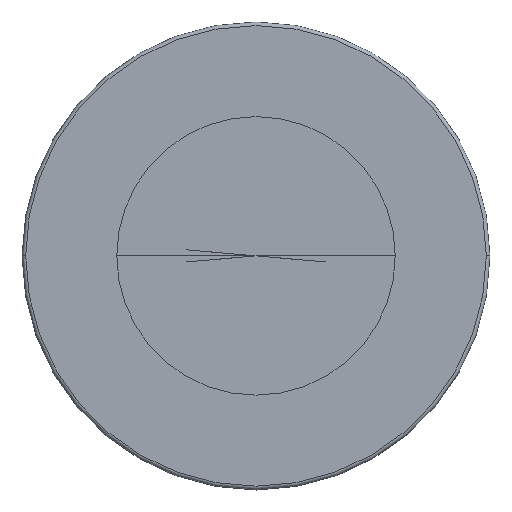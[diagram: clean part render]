
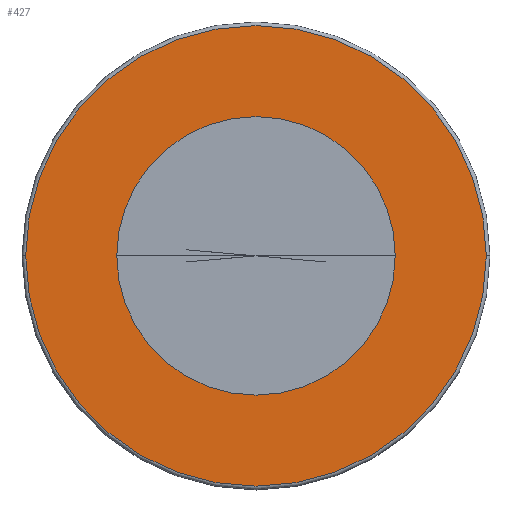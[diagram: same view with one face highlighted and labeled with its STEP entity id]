
A CAD part, top view. The second image highlights one B-rep face of the part: STEP entity #427.
In plain terms, the highlighted planar face has unit normal (0, 0, 1).
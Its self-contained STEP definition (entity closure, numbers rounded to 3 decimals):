
#9=CARTESIAN_POINT('',(0.,0.,2.623));
#10=DIRECTION('',(0.,0.,-1.));
#11=DIRECTION('',(1.,0.,0.));
#12=AXIS2_PLACEMENT_3D('',#9,#10,#11);
#14=CARTESIAN_POINT('',(0.,0.,2.623));
#15=DIRECTION('',(0.,0.,1.));
#16=DIRECTION('',(1.,0.,0.));
#17=AXIS2_PLACEMENT_3D('',#14,#15,#16);
#19=CARTESIAN_POINT('',(0.,0.,2.623));
#20=DIRECTION('',(0.,0.,-1.));
#21=DIRECTION('',(1.,0.,0.));
#22=AXIS2_PLACEMENT_3D('',#19,#20,#21);
#24=CARTESIAN_POINT('',(0.,0.,2.623));
#25=DIRECTION('',(0.,0.,-1.));
#26=DIRECTION('',(-1.,0.,0.));
#27=AXIS2_PLACEMENT_3D('',#24,#25,#26);
#346=CARTESIAN_POINT('',(1.935,0.,2.623));
#348=VERTEX_POINT('',#346);
#349=CARTESIAN_POINT('',(-1.935,0.,2.623));
#350=VERTEX_POINT('',#349);
#372=CARTESIAN_POINT('',(3.2,0.,2.623));
#373=CARTESIAN_POINT('',(-3.2,0.,2.623));
#374=VERTEX_POINT('',#372);
#375=VERTEX_POINT('',#373);
#412=CARTESIAN_POINT('',(0.,0.,2.623));
#413=DIRECTION('',(0.,0.,1.));
#414=DIRECTION('',(-1.,0.,0.));
#415=AXIS2_PLACEMENT_3D('',#412,#413,#414);
#416=PLANE('',#415);
#418=ORIENTED_EDGE('',*,*,#417,.T.);
#420=ORIENTED_EDGE('',*,*,#419,.T.);
#421=EDGE_LOOP('',(#418,#420));
#422=FACE_OUTER_BOUND('',#421,.F.);
#423=ORIENTED_EDGE('',*,*,#406,.F.);
#424=ORIENTED_EDGE('',*,*,#390,.T.);
#425=EDGE_LOOP('',(#423,#424));
#426=FACE_BOUND('',#425,.F.);
#427=ADVANCED_FACE('',(#422,#426),#416,.T.);
#13=CIRCLE('',#12,1.935);
#18=CIRCLE('',#17,1.935);
#23=CIRCLE('',#22,3.2);
#28=CIRCLE('',#27,3.2);
#390=EDGE_CURVE('',#348,#350,#18,.T.);
#406=EDGE_CURVE('',#348,#350,#13,.T.);
#417=EDGE_CURVE('',#374,#375,#23,.T.);
#419=EDGE_CURVE('',#375,#374,#28,.T.);
